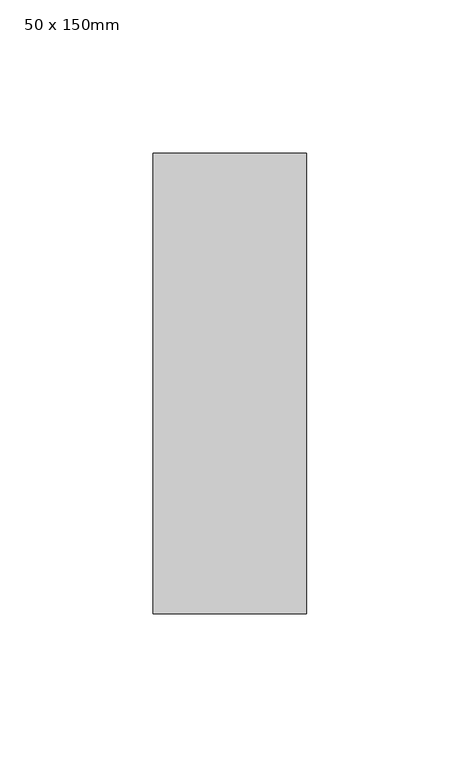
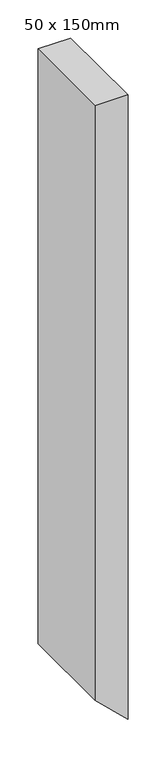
"""IFC4 building model written with IfcOpenShell, lengths in millimetres: member geometry, Прямоугольный импост : 50 x 150mm."""

from ifc_helpers import new_model, si_unit, frame, origin, place, context, project, spatial, polyline, outline, extrude, source, transform, mapped, element, save


def member_50_x_150mm_dbbff88e(model_context):
    return source(origin(), model_context, "Body", "SweptSolid", [
        extrude(outline(polyline([(0.0, 0.0), (0.0, -50.0), (-954.2426977, -50.0), (-1001.542021, 0.0), (0.0, 0.0)])), frame((0.0, -75.0, 0.0), z_axis=(0.0, 1.0, 0.0), x_axis=(0.0, 0.0, 1.0)), (0.0, 0.0, 1.0), 150.0),
    ])


if __name__ == "__main__":
    model = new_model("IFC4")
    model_context = context("Model", 3, world=origin())
    ifc_project = project(units=[si_unit("LENGTHUNIT", "METRE", prefix="MILLI")], contexts=[model_context])
    site = spatial("IfcSite", under=ifc_project)
    building = spatial("IfcBuilding", under=site)
    placement = place(None, origin())
    member_50_x_150mm_shape = member_50_x_150mm_dbbff88e(model_context)
    element("IfcMember", 1, ObjectType="Прямоугольный импост : 50 x 150mm", at=placement, inside=building, context=model_context, shape_type="MappedRepresentation", body=[
        mapped(member_50_x_150mm_shape, transform((0.0, 0.0, 0.0), x_axis=(1.0, 0.0, 0.0), y_axis=(0.0, 1.0, 0.0), z_axis=(0.0, 0.0, 1.0))),
    ])
    save(model, "model.ifc")
